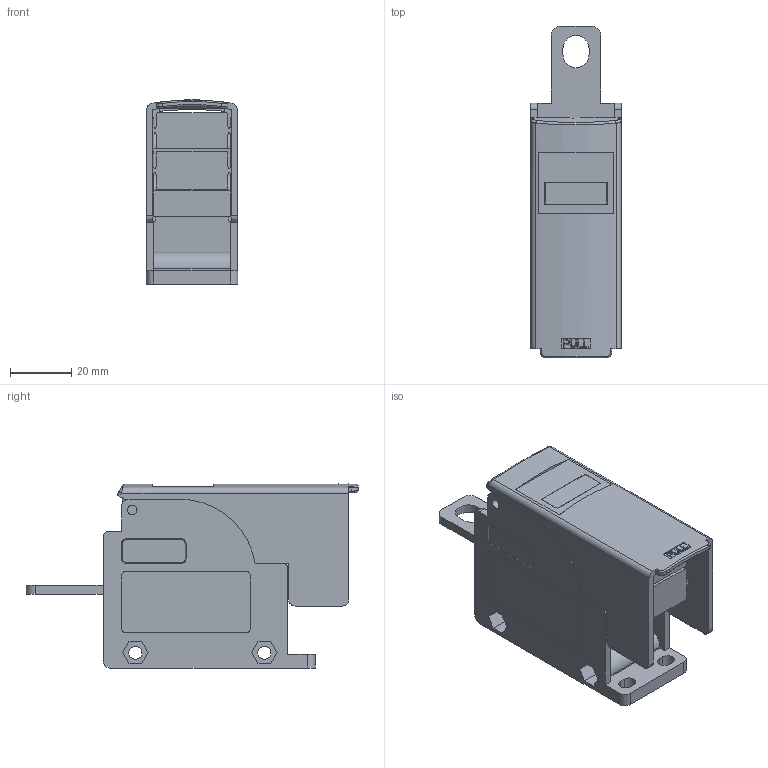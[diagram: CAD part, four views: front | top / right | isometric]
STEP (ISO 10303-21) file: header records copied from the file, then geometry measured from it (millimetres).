
FILE_DESCRIPTION(/* description */ (''),/* implementation_level */ '2;1');
FILE_NAME(/* name */ 'SPD30-S.stp',/* time_stamp */ '2019-11-04T11:47:12+09:00',/* author */ (''),/* organization */ (''),/* preprocessor_version */ 'ST-DEVELOPER v16.7',/* originating_system */ 'SIEMENS PLM Software NX 12.0',/* authorisation */ '');
FILE_SCHEMA (('AP203_CONFIGURATION_CONTROLLED_3D_DESIGN_OF_MECHANICAL_PARTS_AND_ASSEMBLIES_MIM_LF { 1 0 10303 403 2 1 2}'));
Length unit declared in the file: millimetre
Products named in the file (1): kimE9E090E5f7sv
Bounding box: 29.8 x 108.1 x 59.99 mm (x, y, z)
Volume: 72029.6 mm3; surface area: 27439.1 mm2
Topology: 1 solids, 1 shells, 292 faces, 822 edges, 543 vertices
Faces by surface type: plane 196, cylinder 74, bspline 8, cone 6, extrusion 6, torus 2
Full cylindrical faces by diameter (mm): 3.1 x2, 4.3 x2
Entity records: 10254 total; most frequent: CARTESIAN_POINT 2478, ORIENTED_EDGE 1648, DIRECTION 1516, EDGE_CURVE 824, VECTOR 598, LINE 592, VERTEX_POINT 554, AXIS2_PLACEMENT_3D 459
